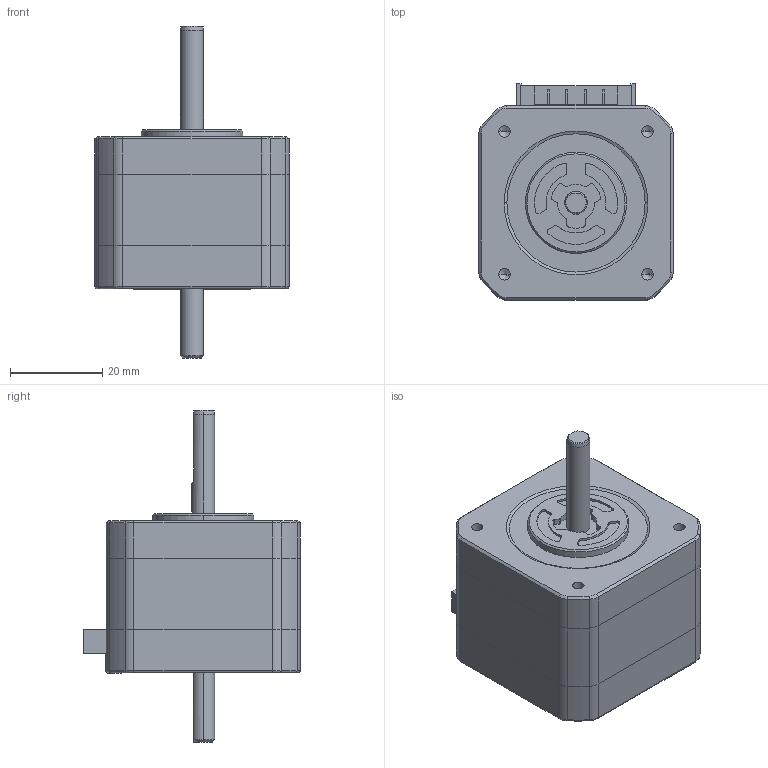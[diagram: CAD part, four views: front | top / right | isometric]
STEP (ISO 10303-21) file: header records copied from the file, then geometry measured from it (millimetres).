
FILE_DESCRIPTION (( 'STEP AP203' ), '1' );
FILE_NAME ('SF2421-12U11.STEP', '2019-08-08T10:03:19', ( 'sanyodenki-admin' ), ( '' ), 'SwSTEP 2.0', 'SolidWorks 2017', '' );
FILE_SCHEMA (( 'CONFIG_CONTROL_DESIGN' ));
Length unit declared in the file: millimetre
Products named in the file (1): SF2421-12U11
Bounding box: 42.15 x 46.98 x 72.05 mm (x, y, z)
Volume: 57613.1 mm3; surface area: 18549.2 mm2
Topology: 11 solids, 11 shells, 462 faces, 1161 edges, 735 vertices
Faces by surface type: plane 198, cylinder 185, cone 57, torus 14, bspline 8
Entity records: 13997 total; most frequent: CARTESIAN_POINT 2626, DIRECTION 2476, ORIENTED_EDGE 2294, EDGE_CURVE 1147, AXIS2_PLACEMENT_3D 897, VERTEX_POINT 735, VECTOR 682, LINE 682
